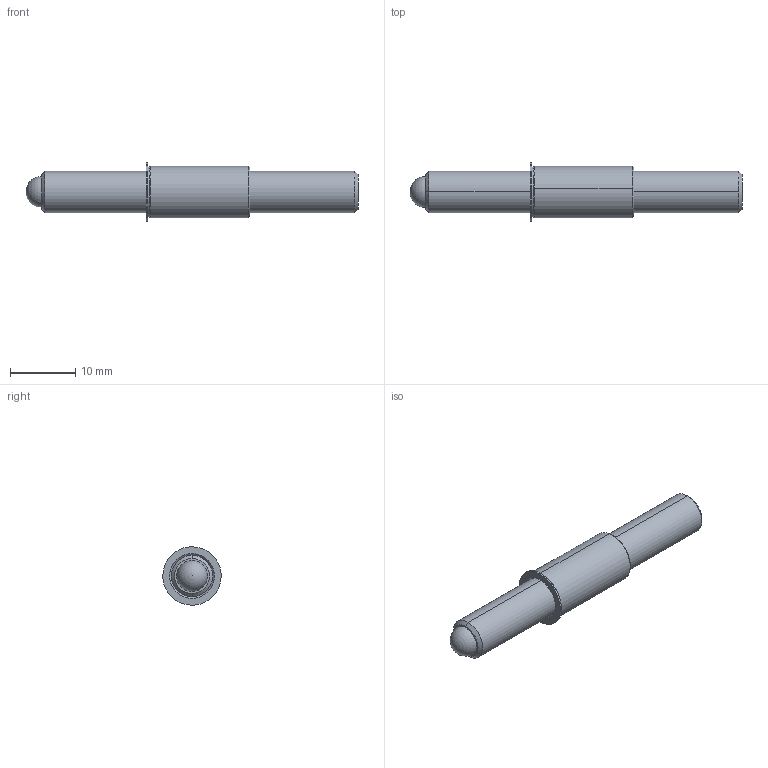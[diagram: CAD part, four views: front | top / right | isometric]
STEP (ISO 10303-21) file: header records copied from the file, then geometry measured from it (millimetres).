
FILE_DESCRIPTION (( 'STEP AP214' ), '1' );
FILE_NAME ('TSB250-80-2000_625-AA.STEP', '2013-03-14T12:57:03', ( 'workpc' ), ( 'Microsoft' ), 'SwSTEP 2.0', 'SolidWorks 2013', '' );
FILE_SCHEMA (( 'AUTOMOTIVE_DESIGN' ));
Length unit declared in the file: inch
Products named in the file (1): TSB250-80-2000_625-AA
Bounding box: 50.8 x 8.94 x 8.94 mm (x, y, z)
Surface area: 1546.1 mm2 (no closed solid volume)
Topology: 0 solids, 3 shells, 33 faces, 77 edges, 49 vertices
Faces by surface type: cone 12, plane 11, cylinder 8, sphere 2
Entity records: 1358 total; most frequent: DIRECTION 174, CARTESIAN_POINT 152, ORIENTED_EDGE 132, EDGE_CURVE 72, AXIS2_PLACEMENT_3D 68, VERTEX_POINT 46, EDGE_LOOP 38, LINE 38
